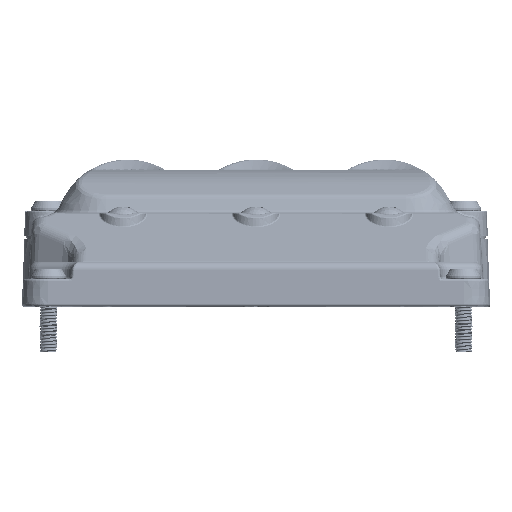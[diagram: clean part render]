
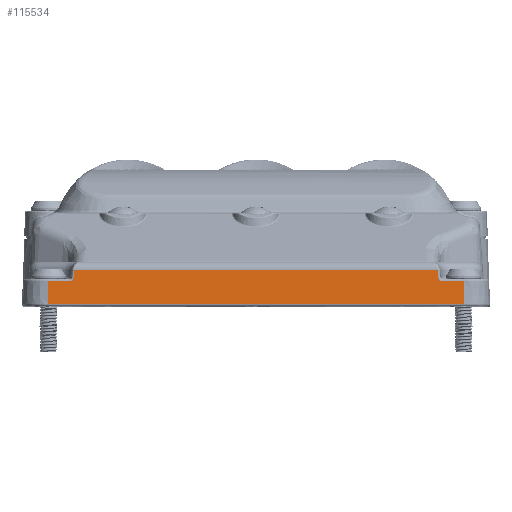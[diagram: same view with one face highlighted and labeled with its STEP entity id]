
A CAD part, top view. The second image highlights one B-rep face of the part: STEP entity #115534.
In plain terms, the highlighted planar face has unit normal (0, 0.035, 0.999).
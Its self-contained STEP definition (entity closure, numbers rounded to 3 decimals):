
#1800 = EDGE_CURVE ( 'NONE', #150269, #116920, #35014, .T. ) ;
#2333 = EDGE_CURVE ( 'NONE', #116920, #116096, #76340, .T. ) ;
#4734 = DIRECTION ( 'NONE',  ( -0.07, -0.997, 0.035 ) ) ;
#10240 = VECTOR ( 'NONE', #24439, 1000. ) ;
#11091 = EDGE_CURVE ( 'NONE', #12600, #51346, #22214, .T. ) ;
#11342 = CARTESIAN_POINT ( 'NONE',  ( -39.719, 6.448, 80.675 ) ) ;
#12600 = VERTEX_POINT ( 'NONE', #114960 ) ;
#14182 = ORIENTED_EDGE ( 'NONE', *, *, #86461, .T. ) ;
#16879 = EDGE_CURVE ( 'NONE', #165304, #51346, #37784, .T. ) ;
#19003 = CARTESIAN_POINT ( 'NONE',  ( -39.786, 5.483, 80.709 ) ) ;
#22214 = LINE ( 'NONE', #131165, #89079 ) ;
#24059 = DIRECTION ( 'NONE',  ( -1., 0., 0. ) ) ;
#24439 = DIRECTION ( 'NONE',  ( 0., -0.999, 0.035 ) ) ;
#26222 = ORIENTED_EDGE ( 'NONE', *, *, #11091, .T. ) ;
#31619 = LINE ( 'NONE', #129838, #172042 ) ;
#34996 = CARTESIAN_POINT ( 'NONE',  ( 40.716, 5.517, 80.707 ) ) ;
#35014 = LINE ( 'NONE', #19003, #94495 ) ;
#36343 = CARTESIAN_POINT ( 'NONE',  ( -50., 5.517, 80.707 ) ) ;
#37784 = LINE ( 'NONE', #92329, #10240 ) ;
#38491 = EDGE_CURVE ( 'NONE', #60123, #12600, #66594, .T. ) ;
#38533 = DIRECTION ( 'NONE',  ( 0., -0.999, 0.035 ) ) ;
#39164 = LINE ( 'NONE', #173222, #64225 ) ;
#39746 = CARTESIAN_POINT ( 'NONE',  ( -45.25, 0., 80.9 ) ) ;
#41532 = ORIENTED_EDGE ( 'NONE', *, *, #77125, .T. ) ;
#47525 = CARTESIAN_POINT ( 'NONE',  ( 39.719, 6.448, 80.675 ) ) ;
#48413 = VECTOR ( 'NONE', #159520, 1000. ) ;
#49425 =( BOUNDED_CURVE ( )  B_SPLINE_CURVE ( 3, ( #34996, #115443, #50160, #47525 ),
 .UNSPECIFIED., .F., .T. ) 
 B_SPLINE_CURVE_WITH_KNOTS ( ( 4, 4 ),
 ( 3.142, 4.643 ),
 .UNSPECIFIED. ) 
 CURVE ( )  GEOMETRIC_REPRESENTATION_ITEM ( )  RATIONAL_B_SPLINE_CURVE ( ( 1., 0.821, 0.821, 1. ) ) 
 REPRESENTATION_ITEM ( '' )  );
#50125 = CARTESIAN_POINT ( 'NONE',  ( 45.25, 0.517, 80.882 ) ) ;
#50160 = CARTESIAN_POINT ( 'NONE',  ( 39.757, 5.895, 80.694 ) ) ;
#51346 = VERTEX_POINT ( 'NONE', #50125 ) ;
#51601 = CARTESIAN_POINT ( 'NONE',  ( 39.619, 7.87, 80.625 ) ) ;
#52509 = EDGE_CURVE ( 'NONE', #138818, #97485, #49425, .T. ) ;
#53584 = EDGE_CURVE ( 'NONE', #116096, #60123, #158783, .T. ) ;
#59128 = CARTESIAN_POINT ( 'NONE',  ( 40.716, 5.517, 80.707 ) ) ;
#60123 = VERTEX_POINT ( 'NONE', #106842 ) ;
#61034 = CARTESIAN_POINT ( 'NONE',  ( -39.719, 6.448, 80.675 ) ) ;
#63082 = EDGE_CURVE ( 'NONE', #165304, #138818, #39164, .T. ) ;
#63300 = DIRECTION ( 'NONE',  ( 1., 0., 0. ) ) ;
#64225 = VECTOR ( 'NONE', #24059, 1000. ) ;
#66594 = LINE ( 'NONE', #39746, #48413 ) ;
#72727 = DIRECTION ( 'NONE',  ( -0.07, 0.997, -0.035 ) ) ;
#75741 = DIRECTION ( 'NONE',  ( -1., 0., 0. ) ) ;
#76340 =( BOUNDED_CURVE ( )  B_SPLINE_CURVE ( 3, ( #11342, #173900, #175640, #163141 ),
 .UNSPECIFIED., .F., .T. ) 
 B_SPLINE_CURVE_WITH_KNOTS ( ( 4, 4 ),
 ( 1.641, 3.142 ),
 .UNSPECIFIED. ) 
 CURVE ( )  GEOMETRIC_REPRESENTATION_ITEM ( )  RATIONAL_B_SPLINE_CURVE ( ( 1., 0.821, 0.821, 1. ) ) 
 REPRESENTATION_ITEM ( '' )  );
#76482 = CARTESIAN_POINT ( 'NONE',  ( 39.719, 6.448, 80.675 ) ) ;
#77125 = EDGE_CURVE ( 'NONE', #97485, #121880, #31619, .T. ) ;
#77947 = PLANE ( 'NONE',  #92841 ) ;
#80179 = ORIENTED_EDGE ( 'NONE', *, *, #52509, .T. ) ;
#80691 = ORIENTED_EDGE ( 'NONE', *, *, #2333, .T. ) ;
#82403 = DIRECTION ( 'NONE',  ( -1., 0., 0. ) ) ;
#86461 = EDGE_CURVE ( 'NONE', #121880, #150269, #107446, .T. ) ;
#89079 = VECTOR ( 'NONE', #63300, 1000. ) ;
#92329 = CARTESIAN_POINT ( 'NONE',  ( 45.25, 0., 80.9 ) ) ;
#92841 = AXIS2_PLACEMENT_3D ( 'NONE', #173463, #159204, #38533 ) ;
#93097 = CARTESIAN_POINT ( 'NONE',  ( -40.716, 5.517, 80.707 ) ) ;
#94495 = VECTOR ( 'NONE', #4734, 1000. ) ;
#97384 = VECTOR ( 'NONE', #75741, 1000. ) ;
#97485 = VERTEX_POINT ( 'NONE', #76482 ) ;
#100608 = ORIENTED_EDGE ( 'NONE', *, *, #53584, .T. ) ;
#106842 = CARTESIAN_POINT ( 'NONE',  ( -45.25, 5.517, 80.707 ) ) ;
#107446 = LINE ( 'NONE', #135119, #121752 ) ;
#114960 = CARTESIAN_POINT ( 'NONE',  ( -45.25, 0.517, 80.882 ) ) ;
#115443 = CARTESIAN_POINT ( 'NONE',  ( 40.162, 5.517, 80.707 ) ) ;
#115534 = ADVANCED_FACE ( 'NONE', ( #175210 ), #77947, .T. ) ;
#116096 = VERTEX_POINT ( 'NONE', #93097 ) ;
#116920 = VERTEX_POINT ( 'NONE', #61034 ) ;
#121752 = VECTOR ( 'NONE', #82403, 1000. ) ;
#121880 = VERTEX_POINT ( 'NONE', #51601 ) ;
#129374 = EDGE_LOOP ( 'NONE', ( #41532, #14182, #142545, #80691, #100608, #166923, #26222, #145590, #142775, #80179 ) ) ;
#129838 = CARTESIAN_POINT ( 'NONE',  ( 39.731, 6.267, 80.681 ) ) ;
#131165 = CARTESIAN_POINT ( 'NONE',  ( -50., 0.517, 80.882 ) ) ;
#135119 = CARTESIAN_POINT ( 'NONE',  ( -39.484, 7.87, 80.625 ) ) ;
#135244 = CARTESIAN_POINT ( 'NONE',  ( 45.25, 5.517, 80.707 ) ) ;
#138818 = VERTEX_POINT ( 'NONE', #59128 ) ;
#142545 = ORIENTED_EDGE ( 'NONE', *, *, #1800, .T. ) ;
#142775 = ORIENTED_EDGE ( 'NONE', *, *, #63082, .T. ) ;
#145590 = ORIENTED_EDGE ( 'NONE', *, *, #16879, .F. ) ;
#150269 = VERTEX_POINT ( 'NONE', #163932 ) ;
#158783 = LINE ( 'NONE', #36343, #97384 ) ;
#159204 = DIRECTION ( 'NONE',  ( 0., 0.035, 0.999 ) ) ;
#159520 = DIRECTION ( 'NONE',  ( 0., -0.999, 0.035 ) ) ;
#163141 = CARTESIAN_POINT ( 'NONE',  ( -40.716, 5.517, 80.707 ) ) ;
#163932 = CARTESIAN_POINT ( 'NONE',  ( -39.619, 7.87, 80.625 ) ) ;
#165304 = VERTEX_POINT ( 'NONE', #135244 ) ;
#166923 = ORIENTED_EDGE ( 'NONE', *, *, #38491, .T. ) ;
#172042 = VECTOR ( 'NONE', #72727, 1000. ) ;
#173222 = CARTESIAN_POINT ( 'NONE',  ( -50., 5.517, 80.707 ) ) ;
#173463 = CARTESIAN_POINT ( 'NONE',  ( -50., 0., 80.9 ) ) ;
#173900 = CARTESIAN_POINT ( 'NONE',  ( -39.757, 5.895, 80.694 ) ) ;
#175210 = FACE_OUTER_BOUND ( 'NONE', #129374, .T. ) ;
#175640 = CARTESIAN_POINT ( 'NONE',  ( -40.162, 5.517, 80.707 ) ) ;
